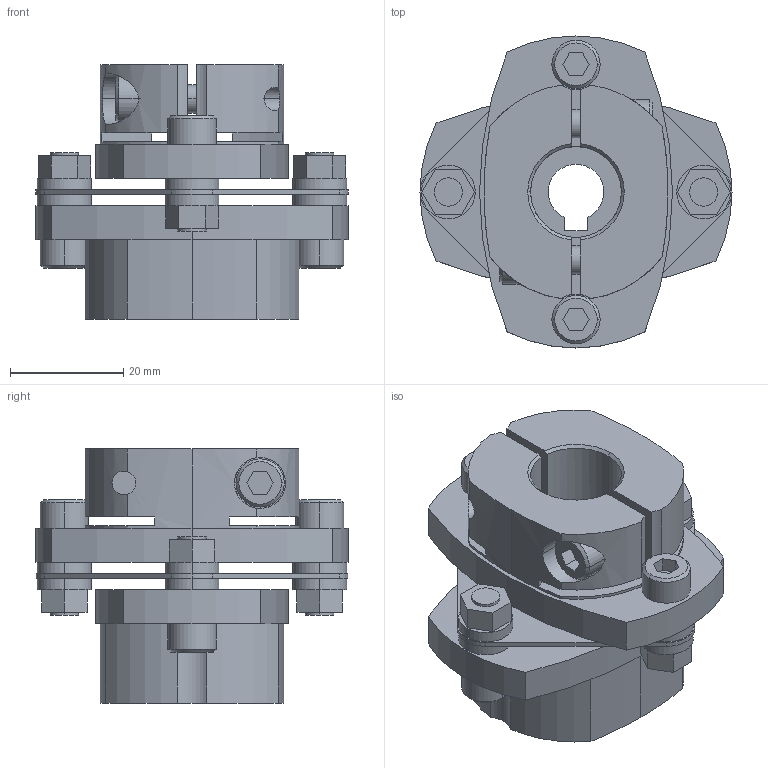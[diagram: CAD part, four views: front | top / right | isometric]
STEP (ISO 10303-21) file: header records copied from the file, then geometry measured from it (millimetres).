
FILE_DESCRIPTION((''),'2;1');
FILE_NAME('LCS-55M-11L亊16B.stp','2011-08-20T15:33:00',(''),(''),'AutoCAD STEP 2000i','AutoCAD 2000i',', , ');
FILE_SCHEMA(('CONFIG_CONTROL_DESIGN'));
Length unit declared in the file: millimetre
Products named in the file (6): LCS-55M-11L×10B; 忣兜1; LC55M-L011; LC55-B010-1; LC55-B010; LCS55-ITA
Assembly tree (6 placements, depth 2):
  LCS-55M-11L×10B
    忣兜1
    LC55M-L011  x2
    LC55-B010-1
    LC55-B010
    LCS55-ITA
Bounding box: 55 x 55 x 44.8 mm (x, y, z)
Volume: 44381.6 mm3; surface area: 19088.8 mm2
Topology: 1 solids, 1 shells, 240 faces, 608 edges, 400 vertices
Faces by surface type: plane 115, cylinder 104, cone 21
Entity records: 7727 total; most frequent: CARTESIAN_POINT 1547, DIRECTION 1320, ORIENTED_EDGE 1216, EDGE_CURVE 608, AXIS2_PLACEMENT_3D 487, VERTEX_POINT 400, VECTOR 346, LINE 346
